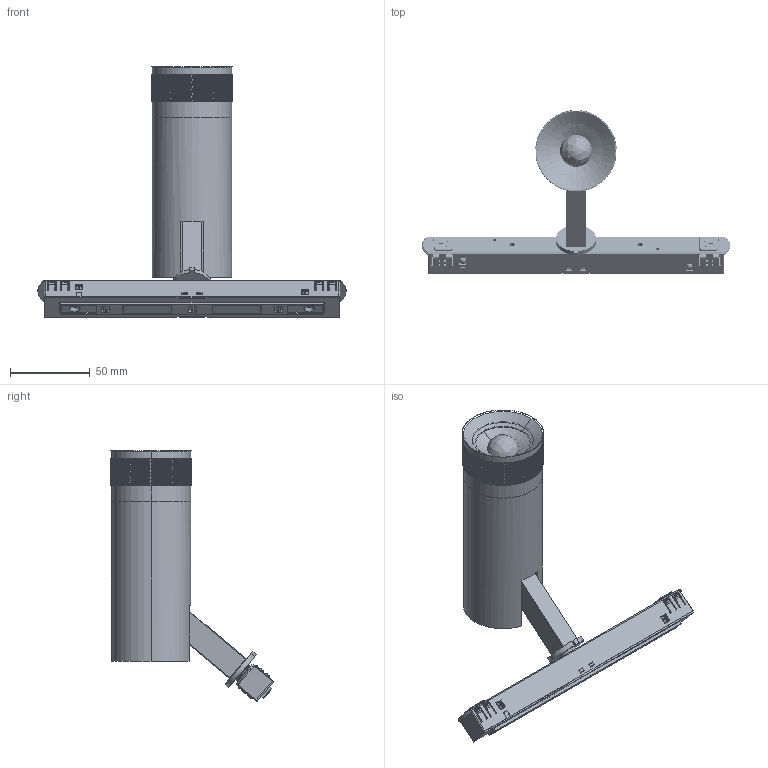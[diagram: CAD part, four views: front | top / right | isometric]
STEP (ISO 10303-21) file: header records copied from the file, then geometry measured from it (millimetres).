
FILE_DESCRIPTION (( 'STEP AP203' ), '1' );
FILE_NAME ('410127.STEP', '2025-04-02T02:48:31', ( '微软用户' ), ( '微软中国' ), 'SwSTEP 2.0', 'SolidWorks 2020', '' );
FILE_SCHEMA (( 'CONFIG_CONTROL_DESIGN' ));
Length unit declared in the file: millimetre
Products named in the file (19): MANIFOLD_SOLID_BREP_1156; GUNHUALVJIAN; MANIFOLD_SOLID_BREP_1146; 10-07-WJ1; LIANJIEGAN_0; MANIFOLD_SOLID_BREP_1147; 10-08-G1_1; LVJI_BAN____1; MANIFOLD_SOLID_BREP_1148; 10-10-gk-2; 46X18MM_NEIHUAN; MANIFOLD_SOLID_BREP_1149; 410127; 35X18MM_TOUJING; MANIFOLD_SOLID_BREP_1150; 15X25MM_BAIBI_HUODONG_1; MANIFOLD_SOLID_BREP_1155; 49_DENGTONG; MANIFOLD_SOLID_BREP_1145
Assembly tree (18 placements, depth 3):
  410127
    49_DENGTONG
    GUNHUALVJIAN
    LIANJIEGAN_0
    LVJI_BAN____1
    46X18MM_NEIHUAN
    35X18MM_TOUJING
    15X25MM_BAIBI_HUODONG_1
    10-10-gk-2
      MANIFOLD_SOLID_BREP_1145
      MANIFOLD_SOLID_BREP_1146
      MANIFOLD_SOLID_BREP_1147
      MANIFOLD_SOLID_BREP_1148
      MANIFOLD_SOLID_BREP_1149
      MANIFOLD_SOLID_BREP_1150
      MANIFOLD_SOLID_BREP_1155
      MANIFOLD_SOLID_BREP_1156
      10-07-WJ1
      10-08-G1_1
Bounding box: 192.8 x 102.22 x 157.1 mm (x, y, z)
Volume: 251736.8 mm3; surface area: 89492.9 mm2
Topology: 141 solids, 141 shells, 4853 faces, 12619 edges, 8084 vertices
Faces by surface type: bspline 2269, cylinder 1376, plane 1031, cone 177
Entity records: 325040 total; most frequent: CARTESIAN_POINT 228701, ORIENTED_EDGE 25238, EDGE_CURVE 12619, DIRECTION 9707, B_SPLINE_CURVE_WITH_KNOTS 9027, VERTEX_POINT 8084, EDGE_LOOP 4983, ADVANCED_FACE 4853
